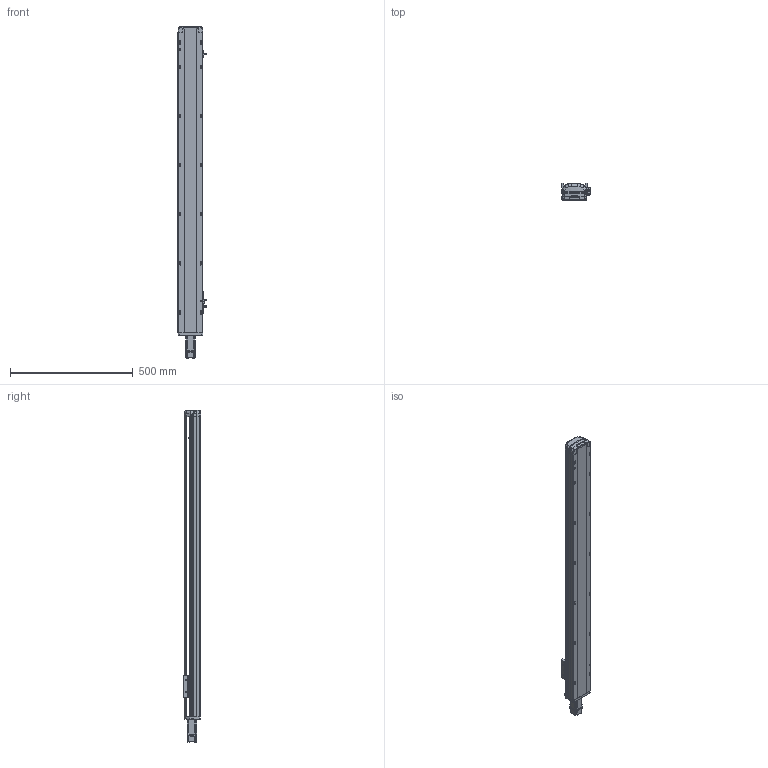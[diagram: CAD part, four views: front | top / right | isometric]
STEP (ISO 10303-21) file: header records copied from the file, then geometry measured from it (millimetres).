
FILE_DESCRIPTION (( 'STEP AP214' ), '1' );
FILE_NAME ('RTH10-XX-1000-E-M10-C4.STEP', '2025-10-25T05:28:20', ( 'Microsoft' ), ( 'Microsoft' ), 'SwSTEP 2.0', 'SolidWorks 2018', '' );
FILE_SCHEMA (( 'AUTOMOTIVE_DESIGN' ));
Length unit declared in the file: millimetre
Products named in the file (9): N_RTH12-GY-004-賑釱^RTH10-XX-XX-E-M10-C4; N_RTH12-GY-001P^RTH10-XX-XX-E-M10-C4; N_RTH12-E-011P-臏倰第菁釱^RTH10-XX-XX-E-M10-C4; N_RTH13-L-012覜茼え俋离^RTH10-XX-XX-E-M10-C4; N_P10^RTH10-XX-XX-E-M10-C4; N_RTH12-E-008-M10萇儂啣^RTH10-XX-XX-E-M10-C4; N_RTH12-E-007P-奻裔^RTH10-XX-XX-E-M10-C4; N_OMRON EE-SX672 传感器^RTH10-XX-XX-E-M10-C4; RTH10-XX-1000-E-M10-C4
Assembly tree (10 placements, depth 2):
  RTH10-XX-1000-E-M10-C4
    N_RTH12-E-011P-臏倰第菁釱^RTH10-XX-XX-E-M10-C4
    N_RTH13-L-012覜茼え俋离^RTH10-XX-XX-E-M10-C4
    N_OMRON EE-SX672 传感器^RTH10-XX-XX-E-M10-C4  x3
    N_P10^RTH10-XX-XX-E-M10-C4
    N_RTH12-E-007P-奻裔^RTH10-XX-XX-E-M10-C4
    N_RTH12-E-008-M10萇儂啣^RTH10-XX-XX-E-M10-C4
    N_RTH12-GY-001P^RTH10-XX-XX-E-M10-C4
    N_RTH12-GY-004-賑釱^RTH10-XX-XX-E-M10-C4
Bounding box: 116.5 x 70 x 1353.17 mm (x, y, z)
Volume: 4923301.3 mm3; surface area: 766459.4 mm2
Topology: 9 solids, 11 shells, 1992 faces, 5563 edges, 3650 vertices
Faces by surface type: plane 980, cylinder 505, bspline 472, cone 33, torus 2
Entity records: 60283 total; most frequent: CARTESIAN_POINT 23694, ORIENTED_EDGE 8206, DIRECTION 6367, EDGE_CURVE 4109, VERTEX_POINT 2694, VECTOR 2153, LINE 2153, AXIS2_PLACEMENT_3D 2107
